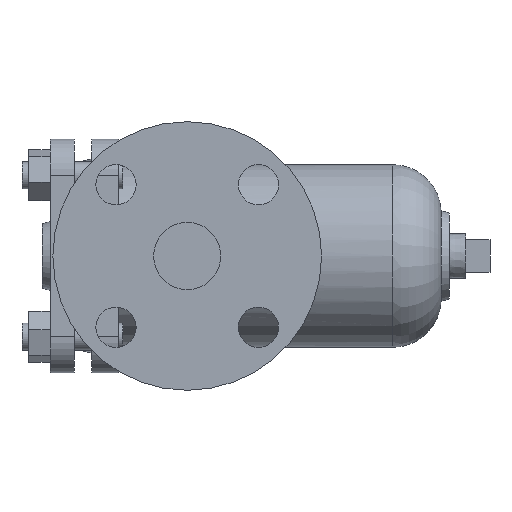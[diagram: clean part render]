
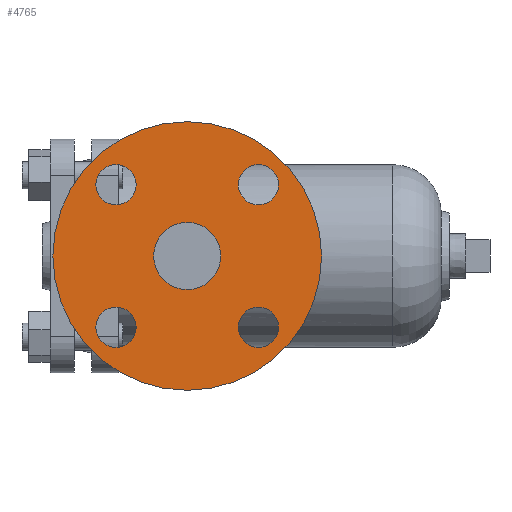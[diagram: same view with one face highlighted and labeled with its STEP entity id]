
A CAD part, left-side view. The second image highlights one B-rep face of the part: STEP entity #4765.
In plain terms, the highlighted planar face has unit normal (-1, 0, 0).
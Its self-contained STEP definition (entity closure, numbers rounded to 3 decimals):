
#8 = CARTESIAN_POINT ( 'NONE',  ( -83., 0., 12.5 ) ) ;
#52 = DIRECTION ( 'NONE',  ( -1., 0., 0. ) ) ;
#149 = ORIENTED_EDGE ( 'NONE', *, *, #1484, .F. ) ;
#239 = AXIS2_PLACEMENT_3D ( 'NONE', #1112, #52, #4863 ) ;
#249 = FACE_OUTER_BOUND ( 'NONE', #1073, .T. ) ;
#309 = CARTESIAN_POINT ( 'NONE',  ( -83., -26.517, 34.017 ) ) ;
#337 = CARTESIAN_POINT ( 'NONE',  ( -83., 0., 0. ) ) ;
#424 = DIRECTION ( 'NONE',  ( -1., 0., 0. ) ) ;
#545 = EDGE_CURVE ( 'NONE', #1299, #3427, #4643, .T. ) ;
#586 = CARTESIAN_POINT ( 'NONE',  ( -83., 0., -50. ) ) ;
#671 = DIRECTION ( 'NONE',  ( 1., 0., 0. ) ) ;
#805 = VERTEX_POINT ( 'NONE', #6503 ) ;
#894 = AXIS2_PLACEMENT_3D ( 'NONE', #2357, #671, #4469 ) ;
#895 = VERTEX_POINT ( 'NONE', #2036 ) ;
#949 = EDGE_CURVE ( 'NONE', #4064, #3412, #3260, .T. ) ;
#981 = ORIENTED_EDGE ( 'NONE', *, *, #5753, .F. ) ;
#1042 = ORIENTED_EDGE ( 'NONE', *, *, #4470, .F. ) ;
#1073 = EDGE_LOOP ( 'NONE', ( #3965, #2383 ) ) ;
#1112 = CARTESIAN_POINT ( 'NONE',  ( -83., 26.517, 26.517 ) ) ;
#1113 = CIRCLE ( 'NONE', #6419, 12.5 ) ;
#1148 = DIRECTION ( 'NONE',  ( 0., 0., 1. ) ) ;
#1165 = ORIENTED_EDGE ( 'NONE', *, *, #1461, .F. ) ;
#1194 = CARTESIAN_POINT ( 'NONE',  ( -83., -26.517, 19.017 ) ) ;
#1255 = FACE_BOUND ( 'NONE', #6228, .T. ) ;
#1299 = VERTEX_POINT ( 'NONE', #1756 ) ;
#1398 = DIRECTION ( 'NONE',  ( 0., 0., 1. ) ) ;
#1435 = CIRCLE ( 'NONE', #3435, 7.5 ) ;
#1449 = CARTESIAN_POINT ( 'NONE',  ( -83., 26.517, -26.517 ) ) ;
#1461 = EDGE_CURVE ( 'NONE', #4591, #2938, #1860, .T. ) ;
#1475 = AXIS2_PLACEMENT_3D ( 'NONE', #6399, #4857, #3709 ) ;
#1484 = EDGE_CURVE ( 'NONE', #5409, #895, #6706, .T. ) ;
#1519 = EDGE_LOOP ( 'NONE', ( #4986, #1165 ) ) ;
#1576 = DIRECTION ( 'NONE',  ( -1., 0., 0. ) ) ;
#1597 = AXIS2_PLACEMENT_3D ( 'NONE', #4707, #2628, #2178 ) ;
#1695 = VERTEX_POINT ( 'NONE', #2400 ) ;
#1756 = CARTESIAN_POINT ( 'NONE',  ( -83., 0., 50. ) ) ;
#1771 = CARTESIAN_POINT ( 'NONE',  ( -83., 26.517, -34.017 ) ) ;
#1782 = EDGE_LOOP ( 'NONE', ( #5358, #149 ) ) ;
#1783 = EDGE_LOOP ( 'NONE', ( #6454, #3961 ) ) ;
#1824 = FACE_BOUND ( 'NONE', #1783, .T. ) ;
#1860 = CIRCLE ( 'NONE', #5749, 7.5 ) ;
#2036 = CARTESIAN_POINT ( 'NONE',  ( -83., 26.517, -19.017 ) ) ;
#2059 = AXIS2_PLACEMENT_3D ( 'NONE', #1449, #424, #6709 ) ;
#2163 = CIRCLE ( 'NONE', #1597, 7.5 ) ;
#2178 = DIRECTION ( 'NONE',  ( 0., 0., -1. ) ) ;
#2357 = CARTESIAN_POINT ( 'NONE',  ( -83., 0., 0. ) ) ;
#2383 = ORIENTED_EDGE ( 'NONE', *, *, #3310, .T. ) ;
#2400 = CARTESIAN_POINT ( 'NONE',  ( -83., 26.517, 34.017 ) ) ;
#2416 = DIRECTION ( 'NONE',  ( 0., 1., 0. ) ) ;
#2455 = CIRCLE ( 'NONE', #3357, 50. ) ;
#2546 = CARTESIAN_POINT ( 'NONE',  ( -83., 0., -12.5 ) ) ;
#2561 = VERTEX_POINT ( 'NONE', #1194 ) ;
#2628 = DIRECTION ( 'NONE',  ( -1., 0., 0. ) ) ;
#2639 = CARTESIAN_POINT ( 'NONE',  ( -83., -26.517, 26.517 ) ) ;
#2688 = AXIS2_PLACEMENT_3D ( 'NONE', #4008, #4560, #2416 ) ;
#2711 = EDGE_LOOP ( 'NONE', ( #2889, #4418 ) ) ;
#2742 = CARTESIAN_POINT ( 'NONE',  ( -83., -26.517, -19.017 ) ) ;
#2865 = EDGE_CURVE ( 'NONE', #3412, #4064, #1113, .T. ) ;
#2889 = ORIENTED_EDGE ( 'NONE', *, *, #4511, .F. ) ;
#2935 = CIRCLE ( 'NONE', #2059, 7.5 ) ;
#2938 = VERTEX_POINT ( 'NONE', #2742 ) ;
#2961 = CARTESIAN_POINT ( 'NONE',  ( -83., -26.517, -26.517 ) ) ;
#3260 = CIRCLE ( 'NONE', #1475, 12.5 ) ;
#3279 = VERTEX_POINT ( 'NONE', #309 ) ;
#3289 = EDGE_CURVE ( 'NONE', #2938, #4591, #4558, .T. ) ;
#3310 = EDGE_CURVE ( 'NONE', #3427, #1299, #2455, .T. ) ;
#3357 = AXIS2_PLACEMENT_3D ( 'NONE', #337, #6663, #6152 ) ;
#3391 = EDGE_CURVE ( 'NONE', #2561, #3279, #2163, .T. ) ;
#3412 = VERTEX_POINT ( 'NONE', #8 ) ;
#3427 = VERTEX_POINT ( 'NONE', #586 ) ;
#3435 = AXIS2_PLACEMENT_3D ( 'NONE', #2639, #4268, #4790 ) ;
#3709 = DIRECTION ( 'NONE',  ( 0., 0., 1. ) ) ;
#3711 = DIRECTION ( 'NONE',  ( -1., 0., 0. ) ) ;
#3738 = AXIS2_PLACEMENT_3D ( 'NONE', #4031, #6148, #1398 ) ;
#3779 = CARTESIAN_POINT ( 'NONE',  ( -83., 0., 0. ) ) ;
#3800 = CARTESIAN_POINT ( 'NONE',  ( -83., 26.517, 26.517 ) ) ;
#3961 = ORIENTED_EDGE ( 'NONE', *, *, #949, .F. ) ;
#3965 = ORIENTED_EDGE ( 'NONE', *, *, #545, .T. ) ;
#4008 = CARTESIAN_POINT ( 'NONE',  ( -83., -26.517, -26.517 ) ) ;
#4012 = DIRECTION ( 'NONE',  ( -1., 0., 0. ) ) ;
#4031 = CARTESIAN_POINT ( 'NONE',  ( -83., 26.517, -26.517 ) ) ;
#4064 = VERTEX_POINT ( 'NONE', #2546 ) ;
#4268 = DIRECTION ( 'NONE',  ( -1., 0., 0. ) ) ;
#4418 = ORIENTED_EDGE ( 'NONE', *, *, #3391, .F. ) ;
#4446 = AXIS2_PLACEMENT_3D ( 'NONE', #3800, #1576, #5851 ) ;
#4469 = DIRECTION ( 'NONE',  ( 0., 0., -1. ) ) ;
#4470 = EDGE_CURVE ( 'NONE', #805, #1695, #4994, .T. ) ;
#4500 = FACE_BOUND ( 'NONE', #1519, .T. ) ;
#4511 = EDGE_CURVE ( 'NONE', #3279, #2561, #1435, .T. ) ;
#4558 = CIRCLE ( 'NONE', #2688, 7.5 ) ;
#4560 = DIRECTION ( 'NONE',  ( -1., 0., 0. ) ) ;
#4591 = VERTEX_POINT ( 'NONE', #4718 ) ;
#4643 = CIRCLE ( 'NONE', #5310, 50. ) ;
#4707 = CARTESIAN_POINT ( 'NONE',  ( -83., -26.517, 26.517 ) ) ;
#4718 = CARTESIAN_POINT ( 'NONE',  ( -83., -26.517, -34.017 ) ) ;
#4765 = ADVANCED_FACE ( 'NONE', ( #4500, #5543, #1255, #5419, #1824, #249 ), #4901, .F. ) ;
#4790 = DIRECTION ( 'NONE',  ( 0., 0., -1. ) ) ;
#4857 = DIRECTION ( 'NONE',  ( -1., 0., 0. ) ) ;
#4863 = DIRECTION ( 'NONE',  ( 0., -1., 0. ) ) ;
#4901 = PLANE ( 'NONE',  #894 ) ;
#4986 = ORIENTED_EDGE ( 'NONE', *, *, #3289, .F. ) ;
#4994 = CIRCLE ( 'NONE', #239, 7.5 ) ;
#5080 = DIRECTION ( 'NONE',  ( -1., 0., 0. ) ) ;
#5100 = CIRCLE ( 'NONE', #4446, 7.5 ) ;
#5310 = AXIS2_PLACEMENT_3D ( 'NONE', #3779, #3711, #1148 ) ;
#5358 = ORIENTED_EDGE ( 'NONE', *, *, #5466, .F. ) ;
#5409 = VERTEX_POINT ( 'NONE', #1771 ) ;
#5419 = FACE_BOUND ( 'NONE', #1782, .T. ) ;
#5466 = EDGE_CURVE ( 'NONE', #895, #5409, #2935, .T. ) ;
#5543 = FACE_BOUND ( 'NONE', #2711, .T. ) ;
#5749 = AXIS2_PLACEMENT_3D ( 'NONE', #2961, #5080, #6659 ) ;
#5753 = EDGE_CURVE ( 'NONE', #1695, #805, #5100, .T. ) ;
#5851 = DIRECTION ( 'NONE',  ( 0., -1., 0. ) ) ;
#6125 = DIRECTION ( 'NONE',  ( 0., 0., 1. ) ) ;
#6148 = DIRECTION ( 'NONE',  ( -1., 0., 0. ) ) ;
#6152 = DIRECTION ( 'NONE',  ( 0., 0., 1. ) ) ;
#6228 = EDGE_LOOP ( 'NONE', ( #981, #1042 ) ) ;
#6399 = CARTESIAN_POINT ( 'NONE',  ( -83., 0., 0. ) ) ;
#6419 = AXIS2_PLACEMENT_3D ( 'NONE', #6669, #4012, #6125 ) ;
#6454 = ORIENTED_EDGE ( 'NONE', *, *, #2865, .F. ) ;
#6503 = CARTESIAN_POINT ( 'NONE',  ( -83., 26.517, 19.017 ) ) ;
#6659 = DIRECTION ( 'NONE',  ( 0., 1., 0. ) ) ;
#6663 = DIRECTION ( 'NONE',  ( -1., 0., 0. ) ) ;
#6669 = CARTESIAN_POINT ( 'NONE',  ( -83., 0., 0. ) ) ;
#6706 = CIRCLE ( 'NONE', #3738, 7.5 ) ;
#6709 = DIRECTION ( 'NONE',  ( 0., 0., 1. ) ) ;
